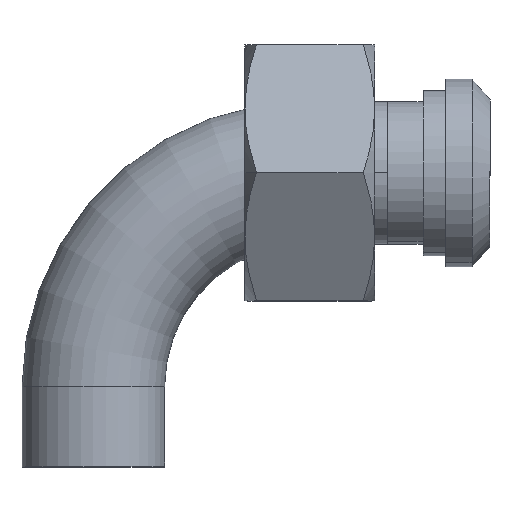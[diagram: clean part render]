
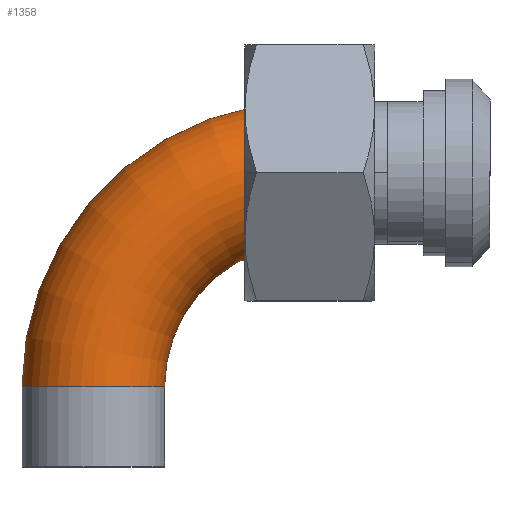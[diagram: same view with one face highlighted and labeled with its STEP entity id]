
A CAD part, top view. The second image highlights one B-rep face of the part: STEP entity #1358.
In plain terms, the highlighted toroidal (fillet/blend) face has major radius 38.1 mm and minor radius 12.7 mm.
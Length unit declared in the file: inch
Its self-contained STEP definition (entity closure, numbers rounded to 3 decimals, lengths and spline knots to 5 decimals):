
#285 = FACE_OUTER_BOUND ( 'NONE', #2128, .T. ) ;
#408 = VERTEX_POINT ( 'NONE', #2279 ) ;
#472 = DIRECTION ( 'NONE',  ( 0., 0., -1. ) ) ;
#483 = ORIENTED_EDGE ( 'NONE', *, *, #893, .F. ) ;
#507 = DIRECTION ( 'NONE',  ( 0., -1., 0. ) ) ;
#596 = AXIS2_PLACEMENT_3D ( 'NONE', #3104, #1468, #3362 ) ;
#616 = AXIS2_PLACEMENT_3D ( 'NONE', #2304, #638, #2575 ) ;
#638 = DIRECTION ( 'NONE',  ( 0., 0., -1. ) ) ;
#672 = AXIS2_PLACEMENT_3D ( 'NONE', #2145, #472, #2417 ) ;
#702 = DIRECTION ( 'NONE',  ( 0., 0., -1. ) ) ;
#893 = EDGE_CURVE ( 'NONE', #1185, #3251, #2457, .T. ) ;
#1023 = CARTESIAN_POINT ( 'NONE',  ( 1.5, 0., 0. ) ) ;
#1060 = AXIS2_PLACEMENT_3D ( 'NONE', #2718, #2184, #507 ) ;
#1111 = ORIENTED_EDGE ( 'NONE', *, *, #1634, .T. ) ;
#1146 = CIRCLE ( 'NONE', #1060, 0.5 ) ;
#1181 = CARTESIAN_POINT ( 'NONE',  ( 1.5, 0.5, 0. ) ) ;
#1185 = VERTEX_POINT ( 'NONE', #1569 ) ;
#1300 = DIRECTION ( 'NONE',  ( 0., -1., 0. ) ) ;
#1338 = ORIENTED_EDGE ( 'NONE', *, *, #1526, .T. ) ;
#1356 = VERTEX_POINT ( 'NONE', #1534 ) ;
#1358 = ADVANCED_FACE ( 'NONE', ( #285 ), #3115, .T. ) ;
#1400 = EDGE_CURVE ( 'NONE', #3480, #408, #1499, .T. ) ;
#1468 = DIRECTION ( 'NONE',  ( 0., -1., 0. ) ) ;
#1499 = CIRCLE ( 'NONE', #2967, 0.5 ) ;
#1526 = EDGE_CURVE ( 'NONE', #1356, #3480, #2156, .T. ) ;
#1534 = CARTESIAN_POINT ( 'NONE',  ( 0.5, -1.5, 0. ) ) ;
#1569 = CARTESIAN_POINT ( 'NONE',  ( -0.5, -1.5, 0. ) ) ;
#1634 = EDGE_CURVE ( 'NONE', #408, #3251, #1146, .T. ) ;
#1840 = DIRECTION ( 'NONE',  ( -1., 0., 0. ) ) ;
#1980 = EDGE_CURVE ( 'NONE', #1356, #1185, #2692, .T. ) ;
#2128 = EDGE_LOOP ( 'NONE', ( #483, #2924, #1338, #3368, #1111 ) ) ;
#2145 = CARTESIAN_POINT ( 'NONE',  ( 1.5, -1.5, 0. ) ) ;
#2156 = CIRCLE ( 'NONE', #672, 1. ) ;
#2184 = DIRECTION ( 'NONE',  ( -1., 0., 0. ) ) ;
#2279 = CARTESIAN_POINT ( 'NONE',  ( 1.5, 0., 0.5 ) ) ;
#2304 = CARTESIAN_POINT ( 'NONE',  ( 1.5, -1.5, 0. ) ) ;
#2337 = CARTESIAN_POINT ( 'NONE',  ( 1.5, -0.5, 0. ) ) ;
#2417 = DIRECTION ( 'NONE',  ( -1., 0., 0. ) ) ;
#2457 = CIRCLE ( 'NONE', #616, 2. ) ;
#2575 = DIRECTION ( 'NONE',  ( -1., 0., 0. ) ) ;
#2692 = CIRCLE ( 'NONE', #596, 0.5 ) ;
#2718 = CARTESIAN_POINT ( 'NONE',  ( 1.5, 0., 0. ) ) ;
#2780 = AXIS2_PLACEMENT_3D ( 'NONE', #3447, #702, #1840 ) ;
#2924 = ORIENTED_EDGE ( 'NONE', *, *, #1980, .F. ) ;
#2948 = DIRECTION ( 'NONE',  ( -1., 0., 0. ) ) ;
#2967 = AXIS2_PLACEMENT_3D ( 'NONE', #1023, #2948, #1300 ) ;
#3104 = CARTESIAN_POINT ( 'NONE',  ( 0., -1.5, 0. ) ) ;
#3115 = TOROIDAL_SURFACE ( 'NONE', #2780, 1.5, 0.5 ) ;
#3251 = VERTEX_POINT ( 'NONE', #1181 ) ;
#3362 = DIRECTION ( 'NONE',  ( 1., 0., 0. ) ) ;
#3368 = ORIENTED_EDGE ( 'NONE', *, *, #1400, .T. ) ;
#3447 = CARTESIAN_POINT ( 'NONE',  ( 1.5, -1.5, 0. ) ) ;
#3480 = VERTEX_POINT ( 'NONE', #2337 ) ;
